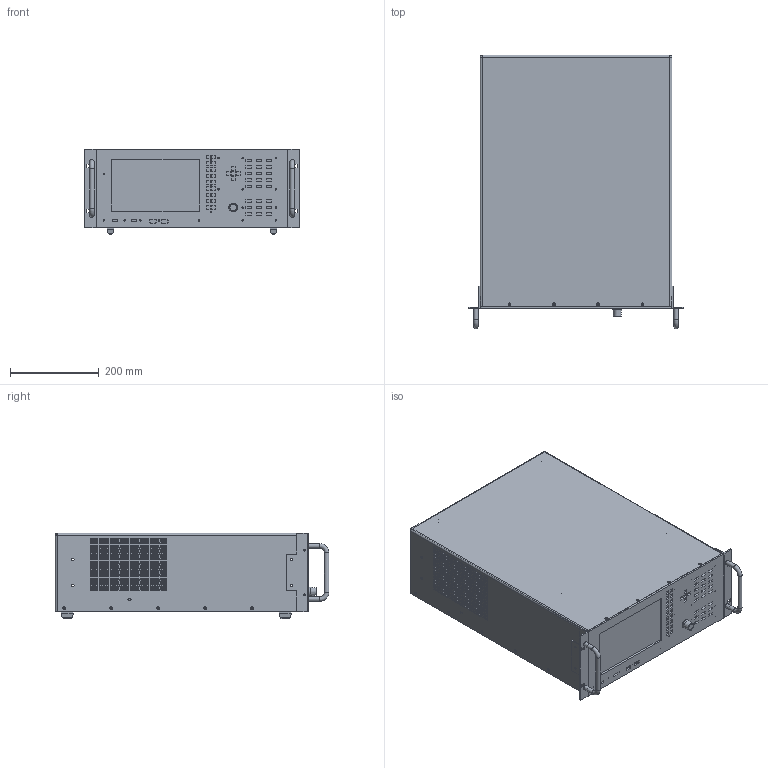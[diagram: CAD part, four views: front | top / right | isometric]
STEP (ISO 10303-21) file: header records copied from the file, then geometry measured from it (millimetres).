
FILE_DESCRIPTION(/* description */ (''),/* implementation_level */ '2;1');
FILE_NAME(/* name */ 'C:\Users\rs\Desktop\LMG 670 Einbaugerät 19Zoll.stp',/* time_stamp */ '2016-02-02T10:47:29+01:00',/* author */ ('rs'),/* organization */ (''),/* preprocessor_version */ 'ST-DEVELOPER v15.6',/* originating_system */ 'Autodesk Inventor 2015',/* authorisation */ '');
FILE_SCHEMA (('AUTOMOTIVE_DESIGN { 1 0 10303 214 3 1 1 }'));
Products named in the file (16): L67Boden; L67FP; L67FP-LP; L67FP-QP; L67FrontBlindplatte; L67Front; L67Deckel; DKNOPF04-LMG600; L6RWK-b; L6RWPC-c; FUSS04-Mentor; L67BW19; 00000376; L67RWBlindplatte; L67BodenBlindplatte; MLMG670-Transport Koffer
Bounding box: 482.6 x 616.7 x 192.5 mm (x, y, z)
Volume: 2984290.8 mm3; surface area: 2456733.6 mm2
Topology: 27 solids, 27 shells, 2822 faces, 8163 edges, 5413 vertices
Faces by surface type: plane 1504, cylinder 1218, cone 93, torus 5, sphere 2
Full cylindrical faces by diameter (mm): 2 x14, 3 x31, 3.2 x62, 3.4 x31, 3.5 x4, 4 x18, 4.1 x4, 4.2 x8, 4.25 x27, 4.4 x63, 4.5 x4, 5 x4, 5.4 x8, 5.5 x4, 6.5 x32, 8 x3, 10 x6, 15 x42, 15.5 x1, 20 x1
Entity records: 84363 total; most frequent: CARTESIAN_POINT 14377, DIRECTION 14197, ORIENTED_EDGE 13846, EDGE_CURVE 6923, VERTEX_POINT 4800, AXIS2_PLACEMENT_3D 4742, LINE 4713, VECTOR 4713
